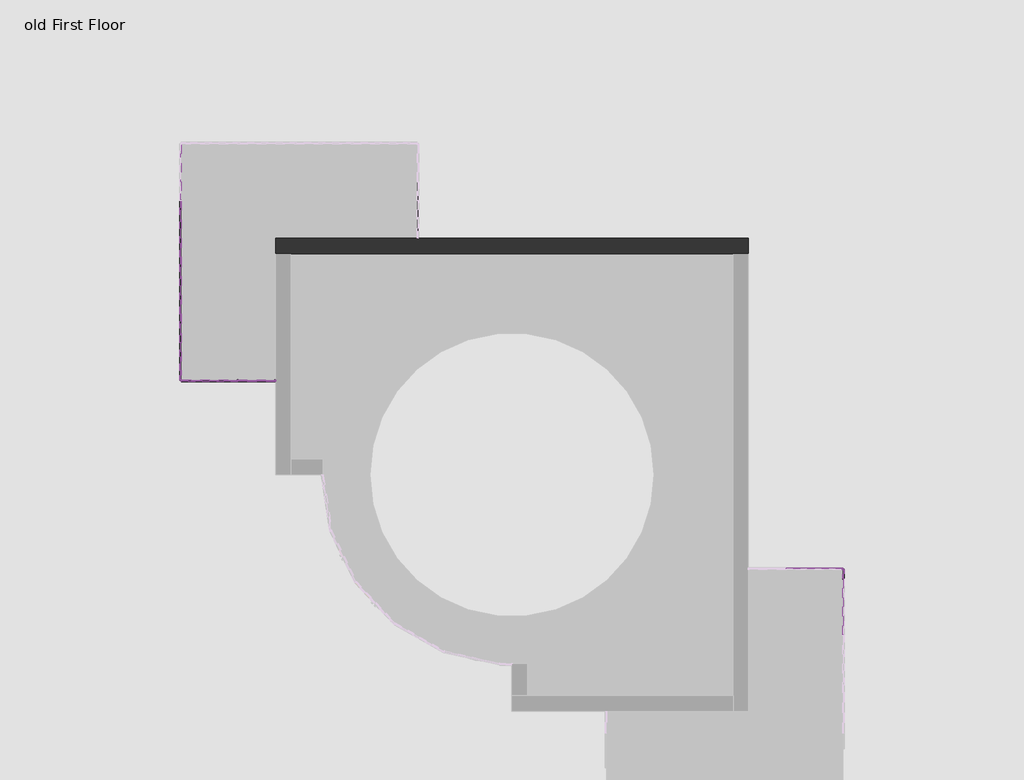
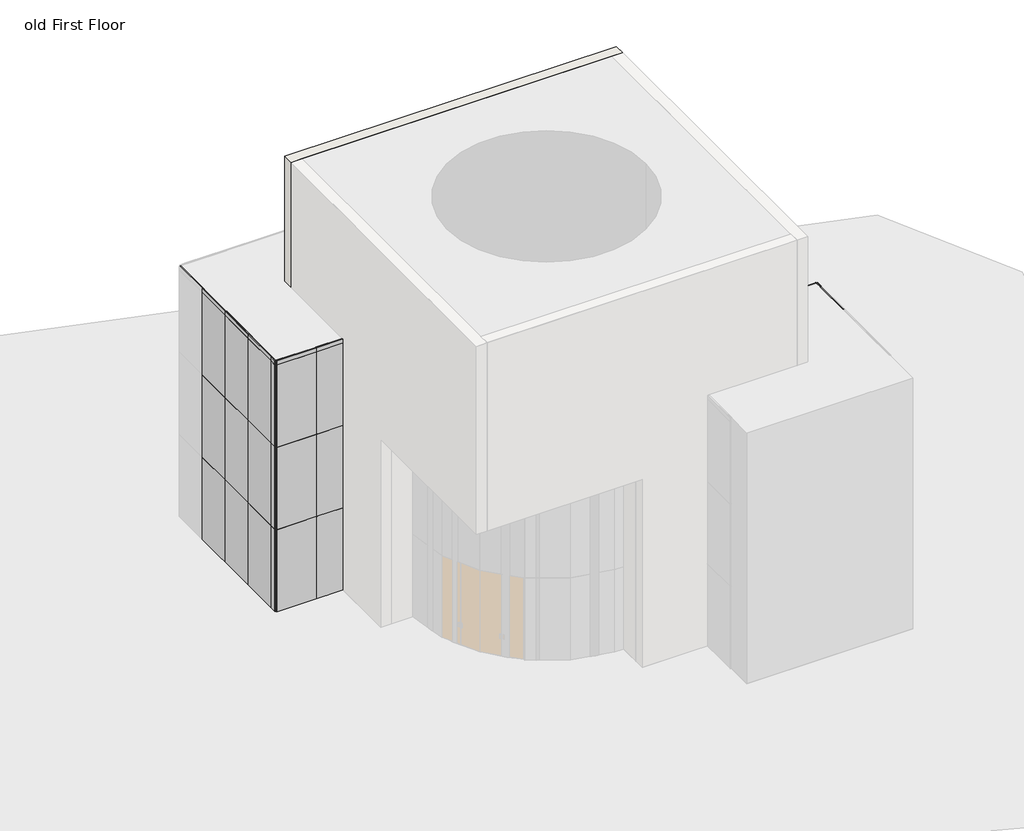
# One storey, part 3 of 4: 92 members, 31 plates, 1 wall.
"""IFC4 building model written with IfcOpenShell, lengths in millimetres."""

from ifc_helpers import new_model, si_unit, origin, place, context, project, spatial, faceted_brep, transform, mapped, element, save
from components import member_159572b0, member_653015da, member_2a641000, member_559eaf3f, member_582f46e3, member_ecc72e92, member_f3435ee7, member_a0b1ebc8, member_e916581d, member_8d5cdd9e, member_e2275742, member_baf210a9, system_panel_glazed_055f5726, system_panel_glazed_f85f85f2, system_panel_glazed_14487ba2, system_panel_glazed_56128400, system_panel_glazed_75032e0c, system_panel_glazed_306a2926

model = new_model("IFC4")

# Units and contexts
model_context = context("Model", 3, world=origin())
ifc_project = project(units=[si_unit("LENGTHUNIT", "METRE", prefix="MILLI")], contexts=[model_context])

# Site, building, storey
site = spatial("IfcSite", under=ifc_project)
building = spatial("IfcBuilding", under=site)
storey = spatial("IfcBuildingStorey", under=building, Name="old First Floor", Elevation=0.0)

# Members
placement = place(None, origin())
member_shape = member_159572b0(model_context)
element("IfcMember", 1, ObjectType="Rectangular Mullion : 1\" Square", at=placement, inside=storey, context=model_context, shape_type="MappedRepresentation", body=[
    mapped(member_shape, transform((10356.8955952, -3393.5148653, 12192.0), x_axis=(0.0, 0.0, 1.0), y_axis=(1.0, 0.0, 0.0), z_axis=(0.0, 1.0, 0.0))),
])
element("IfcMember", 2, ObjectType="Rectangular Mullion : 1\" Square", at=placement, inside=storey, context=model_context, shape_type="MappedRepresentation", body=[
    mapped(member_shape, transform((-10979.1044048, 2753.2851347, 12192.0), x_axis=(0.0, 0.0, 1.0), y_axis=(-1.0, 0.0, 0.0), z_axis=(0.0, -1.0, 0.0))),
])
member_2_shape = member_653015da(model_context)
element("IfcMember", 3, ObjectType="Rectangular Mullion : 1\" Square", at=placement, inside=storey, context=model_context, shape_type="MappedRepresentation", body=[
    mapped(member_2_shape, transform((-10953.7044048, 2727.8851347, 0.0), x_axis=(0.0, 0.0, -1.0), y_axis=(0.0, -1.0, 0.0), z_axis=(-1.0, 0.0, 0.0))),
])
element("IfcMember", 4, ObjectType="Rectangular Mullion : 1\" Square", at=placement, inside=storey, context=model_context, shape_type="MappedRepresentation", body=[
    mapped(member_2_shape, transform((-3359.1044048, 7325.2851347, 0.0), x_axis=(0.0, 0.0, -1.0), y_axis=(1.0, 0.0, 0.0), z_axis=(0.0, -1.0, 0.0))),
])
element("IfcMember", 5, ObjectType="Rectangular Mullion : 1\" Square", at=placement, inside=storey, context=model_context, shape_type="MappedRepresentation", body=[
    mapped(member_2_shape, transform((10331.4955952, -3368.1148653, 0.0), x_axis=(0.0, 0.0, -1.0), y_axis=(0.0, 1.0, 0.0), z_axis=(1.0, 0.0, 0.0))),
])
member_3_shape = member_2a641000(model_context)
element("IfcMember", 6, ObjectType="Rectangular Mullion : 1\" Square", at=placement, inside=storey, context=model_context, shape_type="MappedRepresentation", body=[
    mapped(member_3_shape, transform((10356.8955952, -3668.1148653, 0.0), x_axis=(0.0, 1.0, 0.0), y_axis=(1.0, 0.0, 0.0), z_axis=(0.0, 0.0, -1.0))),
])
element("IfcMember", 7, ObjectType="Rectangular Mullion : 1\" Square", at=placement, inside=storey, context=model_context, shape_type="MappedRepresentation", body=[
    mapped(member_3_shape, transform((-10979.1044048, 8517.8851347, 0.0), x_axis=(0.0, -1.0, 0.0), y_axis=(-1.0, 0.0, 0.0), z_axis=(0.0, 0.0, -1.0))),
])
element("IfcMember", 8, ObjectType="Rectangular Mullion : 1\" Square", at=placement, inside=storey, context=model_context, shape_type="MappedRepresentation", body=[
    mapped(member_3_shape, transform((-10979.1044048, 6687.8851347, 0.0), x_axis=(0.0, -1.0, 0.0), y_axis=(-1.0, 0.0, 0.0), z_axis=(0.0, 0.0, -1.0))),
])
element("IfcMember", 9, ObjectType="Rectangular Mullion : 1\" Square", at=placement, inside=storey, context=model_context, shape_type="MappedRepresentation", body=[
    mapped(member_3_shape, transform((-10979.1044048, 4857.8851347, 0.0), x_axis=(0.0, -1.0, 0.0), y_axis=(-1.0, 0.0, 0.0), z_axis=(0.0, 0.0, -1.0))),
])
element("IfcMember", 10, ObjectType="Rectangular Mullion : 1\" Square", at=placement, inside=storey, context=model_context, shape_type="MappedRepresentation", body=[
    mapped(member_3_shape, transform((-10979.1044048, 3027.8851347, 0.0), x_axis=(0.0, -1.0, 0.0), y_axis=(-1.0, 0.0, 0.0), z_axis=(0.0, 0.0, -1.0))),
])
element("IfcMember", 11, ObjectType="Rectangular Mullion : 1\" Square", at=placement, inside=storey, context=model_context, shape_type="MappedRepresentation", body=[
    mapped(member_3_shape, transform((-9149.1044048, 2727.8851347, 0.0), x_axis=(1.0, 0.0, 0.0), y_axis=(0.0, -1.0, 0.0), z_axis=(0.0, 0.0, -1.0))),
])
member_4_shape = member_559eaf3f(model_context)
element("IfcMember", 12, ObjectType="Rectangular Mullion : 1\" Square", at=placement, inside=storey, context=model_context, shape_type="MappedRepresentation", body=[
    mapped(member_4_shape, transform((-10979.1044048, 8530.5851347, 4000.0), x_axis=(0.0, 0.0, 1.0), y_axis=(-1.0, 0.0, 0.0), z_axis=(0.0, -1.0, 0.0))),
])
element("IfcMember", 13, ObjectType="Rectangular Mullion : 1\" Square", at=placement, inside=storey, context=model_context, shape_type="MappedRepresentation", body=[
    mapped(member_4_shape, transform((-10979.1044048, 8530.5851347, 8000.0), x_axis=(0.0, 0.0, 1.0), y_axis=(-1.0, 0.0, 0.0), z_axis=(0.0, -1.0, 0.0))),
])
element("IfcMember", 14, ObjectType="Rectangular Mullion : 1\" Square", at=placement, inside=storey, context=model_context, shape_type="MappedRepresentation", body=[
    mapped(member_4_shape, transform((-10979.1044048, 8530.5851347, 12000.0), x_axis=(0.0, 0.0, 1.0), y_axis=(-1.0, 0.0, 0.0), z_axis=(0.0, -1.0, 0.0))),
])
element("IfcMember", 15, ObjectType="Rectangular Mullion : 1\" Square", at=placement, inside=storey, context=model_context, shape_type="MappedRepresentation", body=[
    mapped(member_4_shape, transform((-9161.8044048, 2727.8851347, 4000.0), x_axis=(0.0, 0.0, 1.0), y_axis=(0.0, -1.0, 0.0), z_axis=(1.0, 0.0, 0.0))),
])
element("IfcMember", 16, ObjectType="Rectangular Mullion : 1\" Square", at=placement, inside=storey, context=model_context, shape_type="MappedRepresentation", body=[
    mapped(member_4_shape, transform((-9161.8044048, 2727.8851347, 8000.0), x_axis=(0.0, 0.0, 1.0), y_axis=(0.0, -1.0, 0.0), z_axis=(1.0, 0.0, 0.0))),
])
element("IfcMember", 17, ObjectType="Rectangular Mullion : 1\" Square", at=placement, inside=storey, context=model_context, shape_type="MappedRepresentation", body=[
    mapped(member_4_shape, transform((-9161.8044048, 2727.8851347, 12000.0), x_axis=(0.0, 0.0, 1.0), y_axis=(0.0, -1.0, 0.0), z_axis=(1.0, 0.0, 0.0))),
])
member_5_shape = member_582f46e3(model_context)
element("IfcMember", 18, ObjectType="Rectangular Mullion : 1\" Square", at=placement, inside=storey, context=model_context, shape_type="MappedRepresentation", body=[
    mapped(member_5_shape, transform((10356.8955952, -3680.8148653, 4000.0), x_axis=(0.0, 0.0, 1.0), y_axis=(1.0, 0.0, 0.0), z_axis=(0.0, 1.0, 0.0))),
])
element("IfcMember", 19, ObjectType="Rectangular Mullion : 1\" Square", at=placement, inside=storey, context=model_context, shape_type="MappedRepresentation", body=[
    mapped(member_5_shape, transform((10356.8955952, -3680.8148653, 8000.0), x_axis=(0.0, 0.0, 1.0), y_axis=(1.0, 0.0, 0.0), z_axis=(0.0, 1.0, 0.0))),
])
element("IfcMember", 20, ObjectType="Rectangular Mullion : 1\" Square", at=placement, inside=storey, context=model_context, shape_type="MappedRepresentation", body=[
    mapped(member_5_shape, transform((10356.8955952, -3680.8148653, 12000.0), x_axis=(0.0, 0.0, 1.0), y_axis=(1.0, 0.0, 0.0), z_axis=(0.0, 1.0, 0.0))),
])
element("IfcMember", 21, ObjectType="Rectangular Mullion : 1\" Square", at=placement, inside=storey, context=model_context, shape_type="MappedRepresentation", body=[
    mapped(member_5_shape, transform((-10979.1044048, 6700.5851347, 4000.0), x_axis=(0.0, 0.0, 1.0), y_axis=(-1.0, 0.0, 0.0), z_axis=(0.0, -1.0, 0.0))),
])
element("IfcMember", 22, ObjectType="Rectangular Mullion : 1\" Square", at=placement, inside=storey, context=model_context, shape_type="MappedRepresentation", body=[
    mapped(member_5_shape, transform((-10979.1044048, 4870.5851347, 4000.0), x_axis=(0.0, 0.0, 1.0), y_axis=(-1.0, 0.0, 0.0), z_axis=(0.0, -1.0, 0.0))),
])
element("IfcMember", 23, ObjectType="Rectangular Mullion : 1\" Square", at=placement, inside=storey, context=model_context, shape_type="MappedRepresentation", body=[
    mapped(member_5_shape, transform((-10979.1044048, 3040.5851347, 4000.0), x_axis=(0.0, 0.0, 1.0), y_axis=(-1.0, 0.0, 0.0), z_axis=(0.0, -1.0, 0.0))),
])
element("IfcMember", 24, ObjectType="Rectangular Mullion : 1\" Square", at=placement, inside=storey, context=model_context, shape_type="MappedRepresentation", body=[
    mapped(member_5_shape, transform((-10979.1044048, 6700.5851347, 8000.0), x_axis=(0.0, 0.0, 1.0), y_axis=(-1.0, 0.0, 0.0), z_axis=(0.0, -1.0, 0.0))),
])
element("IfcMember", 25, ObjectType="Rectangular Mullion : 1\" Square", at=placement, inside=storey, context=model_context, shape_type="MappedRepresentation", body=[
    mapped(member_5_shape, transform((-10979.1044048, 4870.5851347, 8000.0), x_axis=(0.0, 0.0, 1.0), y_axis=(-1.0, 0.0, 0.0), z_axis=(0.0, -1.0, 0.0))),
])
element("IfcMember", 26, ObjectType="Rectangular Mullion : 1\" Square", at=placement, inside=storey, context=model_context, shape_type="MappedRepresentation", body=[
    mapped(member_5_shape, transform((-10979.1044048, 3040.5851347, 8000.0), x_axis=(0.0, 0.0, 1.0), y_axis=(-1.0, 0.0, 0.0), z_axis=(0.0, -1.0, 0.0))),
])
element("IfcMember", 27, ObjectType="Rectangular Mullion : 1\" Square", at=placement, inside=storey, context=model_context, shape_type="MappedRepresentation", body=[
    mapped(member_5_shape, transform((-10979.1044048, 6700.5851347, 12000.0), x_axis=(0.0, 0.0, 1.0), y_axis=(-1.0, 0.0, 0.0), z_axis=(0.0, -1.0, 0.0))),
])
element("IfcMember", 28, ObjectType="Rectangular Mullion : 1\" Square", at=placement, inside=storey, context=model_context, shape_type="MappedRepresentation", body=[
    mapped(member_5_shape, transform((-10979.1044048, 4870.5851347, 12000.0), x_axis=(0.0, 0.0, 1.0), y_axis=(-1.0, 0.0, 0.0), z_axis=(0.0, -1.0, 0.0))),
])
element("IfcMember", 29, ObjectType="Rectangular Mullion : 1\" Square", at=placement, inside=storey, context=model_context, shape_type="MappedRepresentation", body=[
    mapped(member_5_shape, transform((-10979.1044048, 3040.5851347, 12000.0), x_axis=(0.0, 0.0, 1.0), y_axis=(-1.0, 0.0, 0.0), z_axis=(0.0, -1.0, 0.0))),
])
member_6_shape = member_ecc72e92(model_context)
element("IfcMember", 30, ObjectType="Rectangular Mullion : 1\" Square", at=placement, inside=storey, context=model_context, shape_type="MappedRepresentation", body=[
    mapped(member_6_shape, transform((10356.8955952, -3393.5148653, 4000.0), x_axis=(0.0, 0.0, 1.0), y_axis=(1.0, 0.0, 0.0), z_axis=(0.0, 1.0, 0.0))),
])
element("IfcMember", 31, ObjectType="Rectangular Mullion : 1\" Square", at=placement, inside=storey, context=model_context, shape_type="MappedRepresentation", body=[
    mapped(member_6_shape, transform((10356.8955952, -3393.5148653, 8000.0), x_axis=(0.0, 0.0, 1.0), y_axis=(1.0, 0.0, 0.0), z_axis=(0.0, 1.0, 0.0))),
])
element("IfcMember", 32, ObjectType="Rectangular Mullion : 1\" Square", at=placement, inside=storey, context=model_context, shape_type="MappedRepresentation", body=[
    mapped(member_6_shape, transform((10356.8955952, -3393.5148653, 12000.0), x_axis=(0.0, 0.0, 1.0), y_axis=(1.0, 0.0, 0.0), z_axis=(0.0, 1.0, 0.0))),
])
element("IfcMember", 33, ObjectType="Rectangular Mullion : 1\" Square", at=placement, inside=storey, context=model_context, shape_type="MappedRepresentation", body=[
    mapped(member_6_shape, transform((-10979.1044048, 2753.2851347, 4000.0), x_axis=(0.0, 0.0, 1.0), y_axis=(-1.0, 0.0, 0.0), z_axis=(0.0, -1.0, 0.0))),
])
element("IfcMember", 34, ObjectType="Rectangular Mullion : 1\" Square", at=placement, inside=storey, context=model_context, shape_type="MappedRepresentation", body=[
    mapped(member_6_shape, transform((-10979.1044048, 2753.2851347, 8000.0), x_axis=(0.0, 0.0, 1.0), y_axis=(-1.0, 0.0, 0.0), z_axis=(0.0, -1.0, 0.0))),
])
element("IfcMember", 35, ObjectType="Rectangular Mullion : 1\" Square", at=placement, inside=storey, context=model_context, shape_type="MappedRepresentation", body=[
    mapped(member_6_shape, transform((-10979.1044048, 2753.2851347, 12000.0), x_axis=(0.0, 0.0, 1.0), y_axis=(-1.0, 0.0, 0.0), z_axis=(0.0, -1.0, 0.0))),
])
member_7_shape = member_f3435ee7(model_context)
element("IfcMember", 36, ObjectType="Rectangular Mullion : 1\" Square", at=placement, inside=storey, context=model_context, shape_type="MappedRepresentation", body=[
    mapped(member_7_shape, transform((-10979.1044048, 8505.1851347, 0.0), x_axis=(0.0, 0.0, -1.0), y_axis=(-1.0, 0.0, 0.0), z_axis=(0.0, 1.0, 0.0))),
])
element("IfcMember", 37, ObjectType="Rectangular Mullion : 1\" Square", at=placement, inside=storey, context=model_context, shape_type="MappedRepresentation", body=[
    mapped(member_7_shape, transform((-10979.1044048, 6675.1851347, 0.0), x_axis=(0.0, 0.0, -1.0), y_axis=(-1.0, 0.0, 0.0), z_axis=(0.0, 1.0, 0.0))),
])
element("IfcMember", 38, ObjectType="Rectangular Mullion : 1\" Square", at=placement, inside=storey, context=model_context, shape_type="MappedRepresentation", body=[
    mapped(member_7_shape, transform((-10979.1044048, 4845.1851347, 0.0), x_axis=(0.0, 0.0, -1.0), y_axis=(-1.0, 0.0, 0.0), z_axis=(0.0, 1.0, 0.0))),
])
element("IfcMember", 39, ObjectType="Rectangular Mullion : 1\" Square", at=placement, inside=storey, context=model_context, shape_type="MappedRepresentation", body=[
    mapped(member_shape, transform((10356.8955952, -3655.4148653, 0.0), x_axis=(0.0, 0.0, -1.0), y_axis=(1.0, 0.0, 0.0), z_axis=(0.0, -1.0, 0.0))),
])
element("IfcMember", 40, ObjectType="Rectangular Mullion : 1\" Square", at=placement, inside=storey, context=model_context, shape_type="MappedRepresentation", body=[
    mapped(member_shape, transform((-10979.1044048, 3015.1851347, 0.0), x_axis=(0.0, 0.0, -1.0), y_axis=(-1.0, 0.0, 0.0), z_axis=(0.0, 1.0, 0.0))),
])
element("IfcMember", 41, ObjectType="Rectangular Mullion : 1\" Square", at=placement, inside=storey, context=model_context, shape_type="MappedRepresentation", body=[
    mapped(member_2_shape, transform((-10979.1044048, 8530.5851347, 12192.0), x_axis=(0.0, 0.0, 1.0), y_axis=(-1.0, 0.0, 0.0), z_axis=(0.0, -1.0, 0.0))),
])
element("IfcMember", 42, ObjectType="Rectangular Mullion : 1\" Square", at=placement, inside=storey, context=model_context, shape_type="MappedRepresentation", body=[
    mapped(member_2_shape, transform((-9161.8044048, 2727.8851347, 12192.0), x_axis=(0.0, 0.0, 1.0), y_axis=(0.0, -1.0, 0.0), z_axis=(1.0, 0.0, 0.0))),
])
element("IfcMember", 43, ObjectType="Rectangular Mullion : 1\" Square", at=placement, inside=storey, context=model_context, shape_type="MappedRepresentation", body=[
    mapped(member_7_shape, transform((10356.8955952, -3680.8148653, 12192.0), x_axis=(0.0, 0.0, 1.0), y_axis=(1.0, 0.0, 0.0), z_axis=(0.0, 1.0, 0.0))),
])
element("IfcMember", 44, ObjectType="Rectangular Mullion : 1\" Square", at=placement, inside=storey, context=model_context, shape_type="MappedRepresentation", body=[
    mapped(member_7_shape, transform((-10979.1044048, 6700.5851347, 12192.0), x_axis=(0.0, 0.0, 1.0), y_axis=(-1.0, 0.0, 0.0), z_axis=(0.0, -1.0, 0.0))),
])
element("IfcMember", 45, ObjectType="Rectangular Mullion : 1\" Square", at=placement, inside=storey, context=model_context, shape_type="MappedRepresentation", body=[
    mapped(member_7_shape, transform((-10979.1044048, 4870.5851347, 12192.0), x_axis=(0.0, 0.0, 1.0), y_axis=(-1.0, 0.0, 0.0), z_axis=(0.0, -1.0, 0.0))),
])
element("IfcMember", 46, ObjectType="Rectangular Mullion : 1\" Square", at=placement, inside=storey, context=model_context, shape_type="MappedRepresentation", body=[
    mapped(member_7_shape, transform((-10979.1044048, 3040.5851347, 12192.0), x_axis=(0.0, 0.0, 1.0), y_axis=(-1.0, 0.0, 0.0), z_axis=(0.0, -1.0, 0.0))),
])
element("IfcMember", 47, ObjectType="Rectangular Mullion : 1\" Square", at=placement, inside=storey, context=model_context, shape_type="MappedRepresentation", body=[
    mapped(member_3_shape, transform((10356.8955952, -3668.1148653, 4000.0), x_axis=(0.0, 1.0, 0.0), y_axis=(1.0, 0.0, 0.0), z_axis=(0.0, 0.0, -1.0))),
])
element("IfcMember", 48, ObjectType="Rectangular Mullion : 1\" Square", at=placement, inside=storey, context=model_context, shape_type="MappedRepresentation", body=[
    mapped(member_3_shape, transform((10356.8955952, -3668.1148653, 8000.0), x_axis=(0.0, 1.0, 0.0), y_axis=(1.0, 0.0, 0.0), z_axis=(0.0, 0.0, -1.0))),
])
element("IfcMember", 49, ObjectType="Rectangular Mullion : 1\" Square", at=placement, inside=storey, context=model_context, shape_type="MappedRepresentation", body=[
    mapped(member_3_shape, transform((-10979.1044048, 8517.8851347, 4000.0), x_axis=(0.0, -1.0, 0.0), y_axis=(-1.0, 0.0, 0.0), z_axis=(0.0, 0.0, -1.0))),
])
element("IfcMember", 50, ObjectType="Rectangular Mullion : 1\" Square", at=placement, inside=storey, context=model_context, shape_type="MappedRepresentation", body=[
    mapped(member_3_shape, transform((-10979.1044048, 8517.8851347, 8000.0), x_axis=(0.0, -1.0, 0.0), y_axis=(-1.0, 0.0, 0.0), z_axis=(0.0, 0.0, -1.0))),
])
element("IfcMember", 51, ObjectType="Rectangular Mullion : 1\" Square", at=placement, inside=storey, context=model_context, shape_type="MappedRepresentation", body=[
    mapped(member_3_shape, transform((-10979.1044048, 6687.8851347, 4000.0), x_axis=(0.0, -1.0, 0.0), y_axis=(-1.0, 0.0, 0.0), z_axis=(0.0, 0.0, -1.0))),
])
element("IfcMember", 52, ObjectType="Rectangular Mullion : 1\" Square", at=placement, inside=storey, context=model_context, shape_type="MappedRepresentation", body=[
    mapped(member_3_shape, transform((-10979.1044048, 6687.8851347, 8000.0), x_axis=(0.0, -1.0, 0.0), y_axis=(-1.0, 0.0, 0.0), z_axis=(0.0, 0.0, -1.0))),
])
element("IfcMember", 53, ObjectType="Rectangular Mullion : 1\" Square", at=placement, inside=storey, context=model_context, shape_type="MappedRepresentation", body=[
    mapped(member_3_shape, transform((-10979.1044048, 4857.8851347, 4000.0), x_axis=(0.0, -1.0, 0.0), y_axis=(-1.0, 0.0, 0.0), z_axis=(0.0, 0.0, -1.0))),
])
element("IfcMember", 54, ObjectType="Rectangular Mullion : 1\" Square", at=placement, inside=storey, context=model_context, shape_type="MappedRepresentation", body=[
    mapped(member_3_shape, transform((-10979.1044048, 4857.8851347, 8000.0), x_axis=(0.0, -1.0, 0.0), y_axis=(-1.0, 0.0, 0.0), z_axis=(0.0, 0.0, -1.0))),
])
element("IfcMember", 55, ObjectType="Rectangular Mullion : 1\" Square", at=placement, inside=storey, context=model_context, shape_type="MappedRepresentation", body=[
    mapped(member_3_shape, transform((-10979.1044048, 3027.8851347, 4000.0), x_axis=(0.0, -1.0, 0.0), y_axis=(-1.0, 0.0, 0.0), z_axis=(0.0, 0.0, -1.0))),
])
element("IfcMember", 56, ObjectType="Rectangular Mullion : 1\" Square", at=placement, inside=storey, context=model_context, shape_type="MappedRepresentation", body=[
    mapped(member_3_shape, transform((-10979.1044048, 3027.8851347, 8000.0), x_axis=(0.0, -1.0, 0.0), y_axis=(-1.0, 0.0, 0.0), z_axis=(0.0, 0.0, -1.0))),
])
element("IfcMember", 57, ObjectType="Rectangular Mullion : 1\" Square", at=placement, inside=storey, context=model_context, shape_type="MappedRepresentation", body=[
    mapped(member_3_shape, transform((-9149.1044048, 2727.8851347, 4000.0), x_axis=(1.0, 0.0, 0.0), y_axis=(0.0, -1.0, 0.0), z_axis=(0.0, 0.0, -1.0))),
])
element("IfcMember", 58, ObjectType="Rectangular Mullion : 1\" Square", at=placement, inside=storey, context=model_context, shape_type="MappedRepresentation", body=[
    mapped(member_3_shape, transform((-9149.1044048, 2727.8851347, 8000.0), x_axis=(1.0, 0.0, 0.0), y_axis=(0.0, -1.0, 0.0), z_axis=(0.0, 0.0, -1.0))),
])
member_8_shape = member_a0b1ebc8(model_context)
element("IfcMember", 59, ObjectType="Rectangular Mullion : 1\" Square", at=placement, inside=storey, context=model_context, shape_type="MappedRepresentation", body=[
    mapped(member_8_shape, transform((10356.8955952, -3668.1148653, 12000.0), x_axis=(0.0, 1.0, 0.0), y_axis=(1.0, 0.0, 0.0), z_axis=(0.0, 0.0, -1.0))),
])
element("IfcMember", 60, ObjectType="Rectangular Mullion : 1\" Square", at=placement, inside=storey, context=model_context, shape_type="MappedRepresentation", body=[
    mapped(member_8_shape, transform((-10979.1044048, 6687.8851347, 12000.0), x_axis=(0.0, -1.0, 0.0), y_axis=(-1.0, 0.0, 0.0), z_axis=(0.0, 0.0, -1.0))),
])
element("IfcMember", 61, ObjectType="Rectangular Mullion : 1\" Square", at=placement, inside=storey, context=model_context, shape_type="MappedRepresentation", body=[
    mapped(member_8_shape, transform((-10979.1044048, 4857.8851347, 12000.0), x_axis=(0.0, -1.0, 0.0), y_axis=(-1.0, 0.0, 0.0), z_axis=(0.0, 0.0, -1.0))),
])
element("IfcMember", 62, ObjectType="Rectangular Mullion : 1\" Square", at=placement, inside=storey, context=model_context, shape_type="MappedRepresentation", body=[
    mapped(member_8_shape, transform((-10979.1044048, 3027.8851347, 12000.0), x_axis=(0.0, -1.0, 0.0), y_axis=(-1.0, 0.0, 0.0), z_axis=(0.0, 0.0, -1.0))),
])
element("IfcMember", 63, ObjectType="Rectangular Mullion : 1\" Square", at=placement, inside=storey, context=model_context, shape_type="MappedRepresentation", body=[
    mapped(member_8_shape, transform((-9149.1044048, 2727.8851347, 12000.0), x_axis=(1.0, 0.0, 0.0), y_axis=(0.0, -1.0, 0.0), z_axis=(0.0, 0.0, -1.0))),
])
member_9_shape = member_e916581d(model_context)
element("IfcMember", 64, ObjectType="Rectangular Mullion : 1\" Square", at=placement, inside=storey, context=model_context, shape_type="MappedRepresentation", body=[
    mapped(member_9_shape, transform((-7956.5044048, 2727.8851347, 12192.0), x_axis=(0.0, 0.0, 1.0), y_axis=(0.0, -1.0, 0.0), z_axis=(1.0, 0.0, 0.0))),
])
member_10_shape = member_8d5cdd9e(model_context)
element("IfcMember", 65, ObjectType="Rectangular Mullion : 1\" Square", at=placement, inside=storey, context=model_context, shape_type="MappedRepresentation", body=[
    mapped(member_10_shape, transform((-7956.5044048, 2727.8851347, 4000.0), x_axis=(0.0, 0.0, 1.0), y_axis=(0.0, -1.0, 0.0), z_axis=(1.0, 0.0, 0.0))),
])
element("IfcMember", 66, ObjectType="Rectangular Mullion : 1\" Square", at=placement, inside=storey, context=model_context, shape_type="MappedRepresentation", body=[
    mapped(member_10_shape, transform((-7956.5044048, 2727.8851347, 8000.0), x_axis=(0.0, 0.0, 1.0), y_axis=(0.0, -1.0, 0.0), z_axis=(1.0, 0.0, 0.0))),
])
element("IfcMember", 67, ObjectType="Rectangular Mullion : 1\" Square", at=placement, inside=storey, context=model_context, shape_type="MappedRepresentation", body=[
    mapped(member_10_shape, transform((-7956.5044048, 2727.8851347, 12000.0), x_axis=(0.0, 0.0, 1.0), y_axis=(0.0, -1.0, 0.0), z_axis=(1.0, 0.0, 0.0))),
])
element("IfcMember", 68, ObjectType="Rectangular Mullion : 1\" Square", at=placement, inside=storey, context=model_context, shape_type="MappedRepresentation", body=[
    mapped(member_9_shape, transform((-9136.4044048, 2727.8851347, 0.0), x_axis=(0.0, 0.0, -1.0), y_axis=(0.0, -1.0, 0.0), z_axis=(-1.0, 0.0, 0.0))),
])
member_11_shape = member_e2275742(model_context)
element("IfcMember", 69, ObjectType="Rectangular Mullion : 1\" Square", at=placement, inside=storey, context=model_context, shape_type="MappedRepresentation", body=[
    mapped(member_11_shape, transform((10356.8955952, -3368.1148653, 0.0), x_axis=(0.0, 1.0, 0.0), y_axis=(1.0, 0.0, 0.0), z_axis=(0.0, 0.0, -1.0))),
])
element("IfcMember", 70, ObjectType="Rectangular Mullion : 1\" Square", at=placement, inside=storey, context=model_context, shape_type="MappedRepresentation", body=[
    mapped(member_11_shape, transform((-10979.1044048, 2727.8851347, 0.0), x_axis=(0.0, -1.0, 0.0), y_axis=(-1.0, 0.0, 0.0), z_axis=(0.0, 0.0, -1.0))),
])
element("IfcMember", 71, ObjectType="Rectangular Mullion : 1\" Square", at=placement, inside=storey, context=model_context, shape_type="MappedRepresentation", body=[
    mapped(member_11_shape, transform((-7931.1044048, 2727.8851347, 0.0), x_axis=(1.0, 0.0, 0.0), y_axis=(0.0, -1.0, 0.0), z_axis=(0.0, 0.0, -1.0))),
])
element("IfcMember", 72, ObjectType="Rectangular Mullion : 1\" Square", at=placement, inside=storey, context=model_context, shape_type="MappedRepresentation", body=[
    mapped(member_11_shape, transform((-10979.1044048, 2727.8851347, 4000.0), x_axis=(-1.0, 0.0, 0.0), y_axis=(0.0, -1.0, 0.0), z_axis=(0.0, 0.0, 1.0))),
])
element("IfcMember", 73, ObjectType="Rectangular Mullion : 1\" Square", at=placement, inside=storey, context=model_context, shape_type="MappedRepresentation", body=[
    mapped(member_11_shape, transform((-3359.1044048, 7299.8851347, 4000.0), x_axis=(0.0, -1.0, 0.0), y_axis=(1.0, 0.0, 0.0), z_axis=(0.0, 0.0, 1.0))),
])
element("IfcMember", 74, ObjectType="Rectangular Mullion : 1\" Square", at=placement, inside=storey, context=model_context, shape_type="MappedRepresentation", body=[
    mapped(member_11_shape, transform((10356.8955952, -3368.1148653, 4000.0), x_axis=(1.0, 0.0, 0.0), y_axis=(0.0, 1.0, 0.0), z_axis=(0.0, 0.0, 1.0))),
])
element("IfcMember", 75, ObjectType="Rectangular Mullion : 1\" Square", at=placement, inside=storey, context=model_context, shape_type="MappedRepresentation", body=[
    mapped(member_11_shape, transform((-10979.1044048, 2727.8851347, 8000.0), x_axis=(-1.0, 0.0, 0.0), y_axis=(0.0, -1.0, 0.0), z_axis=(0.0, 0.0, 1.0))),
])
element("IfcMember", 76, ObjectType="Rectangular Mullion : 1\" Square", at=placement, inside=storey, context=model_context, shape_type="MappedRepresentation", body=[
    mapped(member_11_shape, transform((-10979.1044048, 2727.8851347, 12000.0), x_axis=(-1.0, 0.0, 0.0), y_axis=(0.0, -1.0, 0.0), z_axis=(0.0, 0.0, 1.0))),
])
element("IfcMember", 77, ObjectType="Rectangular Mullion : 1\" Square", at=placement, inside=storey, context=model_context, shape_type="MappedRepresentation", body=[
    mapped(member_11_shape, transform((-3359.1044048, 7299.8851347, 8000.0), x_axis=(0.0, -1.0, 0.0), y_axis=(1.0, 0.0, 0.0), z_axis=(0.0, 0.0, 1.0))),
])
element("IfcMember", 78, ObjectType="Rectangular Mullion : 1\" Square", at=placement, inside=storey, context=model_context, shape_type="MappedRepresentation", body=[
    mapped(member_11_shape, transform((-3359.1044048, 7299.8851347, 12000.0), x_axis=(0.0, -1.0, 0.0), y_axis=(1.0, 0.0, 0.0), z_axis=(0.0, 0.0, 1.0))),
])
element("IfcMember", 79, ObjectType="Rectangular Mullion : 1\" Square", at=placement, inside=storey, context=model_context, shape_type="MappedRepresentation", body=[
    mapped(member_11_shape, transform((10356.8955952, -3368.1148653, 8000.0), x_axis=(1.0, 0.0, 0.0), y_axis=(0.0, 1.0, 0.0), z_axis=(0.0, 0.0, 1.0))),
])
element("IfcMember", 80, ObjectType="Rectangular Mullion : 1\" Square", at=placement, inside=storey, context=model_context, shape_type="MappedRepresentation", body=[
    mapped(member_11_shape, transform((10356.8955952, -3368.1148653, 12000.0), x_axis=(1.0, 0.0, 0.0), y_axis=(0.0, 1.0, 0.0), z_axis=(0.0, 0.0, 1.0))),
])
element("IfcMember", 81, ObjectType="Rectangular Mullion : 1\" Square", at=placement, inside=storey, context=model_context, shape_type="MappedRepresentation", body=[
    mapped(member_11_shape, transform((10356.8955952, -3368.1148653, 4000.0), x_axis=(0.0, 1.0, 0.0), y_axis=(1.0, 0.0, 0.0), z_axis=(0.0, 0.0, -1.0))),
])
element("IfcMember", 82, ObjectType="Rectangular Mullion : 1\" Square", at=placement, inside=storey, context=model_context, shape_type="MappedRepresentation", body=[
    mapped(member_11_shape, transform((10356.8955952, -3368.1148653, 8000.0), x_axis=(0.0, 1.0, 0.0), y_axis=(1.0, 0.0, 0.0), z_axis=(0.0, 0.0, -1.0))),
])
element("IfcMember", 83, ObjectType="Rectangular Mullion : 1\" Square", at=placement, inside=storey, context=model_context, shape_type="MappedRepresentation", body=[
    mapped(member_11_shape, transform((-10979.1044048, 2727.8851347, 4000.0), x_axis=(0.0, -1.0, 0.0), y_axis=(-1.0, 0.0, 0.0), z_axis=(0.0, 0.0, -1.0))),
])
element("IfcMember", 84, ObjectType="Rectangular Mullion : 1\" Square", at=placement, inside=storey, context=model_context, shape_type="MappedRepresentation", body=[
    mapped(member_11_shape, transform((-10979.1044048, 2727.8851347, 8000.0), x_axis=(0.0, -1.0, 0.0), y_axis=(-1.0, 0.0, 0.0), z_axis=(0.0, 0.0, -1.0))),
])
element("IfcMember", 85, ObjectType="Rectangular Mullion : 1\" Square", at=placement, inside=storey, context=model_context, shape_type="MappedRepresentation", body=[
    mapped(member_11_shape, transform((-7931.1044048, 2727.8851347, 4000.0), x_axis=(1.0, 0.0, 0.0), y_axis=(0.0, -1.0, 0.0), z_axis=(0.0, 0.0, -1.0))),
])
element("IfcMember", 86, ObjectType="Rectangular Mullion : 1\" Square", at=placement, inside=storey, context=model_context, shape_type="MappedRepresentation", body=[
    mapped(member_11_shape, transform((-7931.1044048, 2727.8851347, 8000.0), x_axis=(1.0, 0.0, 0.0), y_axis=(0.0, -1.0, 0.0), z_axis=(0.0, 0.0, -1.0))),
])
member_12_shape = member_baf210a9(model_context)
element("IfcMember", 87, ObjectType="Rectangular Mullion : 1\" Square", at=placement, inside=storey, context=model_context, shape_type="MappedRepresentation", body=[
    mapped(member_12_shape, transform((-10979.1044048, 2727.8851347, 12192.0), x_axis=(-1.0, 0.0, 0.0), y_axis=(0.0, -1.0, 0.0), z_axis=(0.0, 0.0, 1.0))),
])
element("IfcMember", 88, ObjectType="Rectangular Mullion : 1\" Square", at=placement, inside=storey, context=model_context, shape_type="MappedRepresentation", body=[
    mapped(member_12_shape, transform((-3359.1044048, 7299.8851347, 12192.0), x_axis=(0.0, -1.0, 0.0), y_axis=(1.0, 0.0, 0.0), z_axis=(0.0, 0.0, 1.0))),
])
element("IfcMember", 89, ObjectType="Rectangular Mullion : 1\" Square", at=placement, inside=storey, context=model_context, shape_type="MappedRepresentation", body=[
    mapped(member_12_shape, transform((10356.8955952, -3368.1148653, 12192.0), x_axis=(1.0, 0.0, 0.0), y_axis=(0.0, 1.0, 0.0), z_axis=(0.0, 0.0, 1.0))),
])
element("IfcMember", 90, ObjectType="Rectangular Mullion : 1\" Square", at=placement, inside=storey, context=model_context, shape_type="MappedRepresentation", body=[
    mapped(member_12_shape, transform((10356.8955952, -3368.1148653, 12000.0), x_axis=(0.0, 1.0, 0.0), y_axis=(1.0, 0.0, 0.0), z_axis=(0.0, 0.0, -1.0))),
])
element("IfcMember", 91, ObjectType="Rectangular Mullion : 1\" Square", at=placement, inside=storey, context=model_context, shape_type="MappedRepresentation", body=[
    mapped(member_12_shape, transform((-10979.1044048, 2727.8851347, 12000.0), x_axis=(0.0, -1.0, 0.0), y_axis=(-1.0, 0.0, 0.0), z_axis=(0.0, 0.0, -1.0))),
])
element("IfcMember", 92, ObjectType="Rectangular Mullion : 1\" Square", at=placement, inside=storey, context=model_context, shape_type="MappedRepresentation", body=[
    mapped(member_12_shape, transform((-7931.1044048, 2727.8851347, 12000.0), x_axis=(1.0, 0.0, 0.0), y_axis=(0.0, -1.0, 0.0), z_axis=(0.0, 0.0, -1.0))),
])

# Plates
system_panel_glazed_shape = system_panel_glazed_055f5726(model_context)
element("IfcPlate", 93, ObjectType="System Panel : Glazed", at=placement, inside=storey, context=model_context, shape_type="MappedRepresentation", body=[
    mapped(system_panel_glazed_shape, transform((-10979.1044048, 7602.8851347, 0.0), x_axis=(0.0, -1.0, 0.0), y_axis=(1.0, 0.0, 0.0), z_axis=(0.0, 0.0, 1.0))),
])
element("IfcPlate", 94, ObjectType="System Panel : Glazed", at=placement, inside=storey, context=model_context, shape_type="MappedRepresentation", body=[
    mapped(system_panel_glazed_shape, transform((-10979.1044048, 5772.8851347, 0.0), x_axis=(0.0, -1.0, 0.0), y_axis=(1.0, 0.0, 0.0), z_axis=(0.0, 0.0, 1.0))),
])
element("IfcPlate", 95, ObjectType="System Panel : Glazed", at=placement, inside=storey, context=model_context, shape_type="MappedRepresentation", body=[
    mapped(system_panel_glazed_shape, transform((-10979.1044048, 3942.8851347, 0.0), x_axis=(0.0, -1.0, 0.0), y_axis=(1.0, 0.0, 0.0), z_axis=(0.0, 0.0, 1.0))),
])
element("IfcPlate", 96, ObjectType="System Panel : Glazed", at=placement, inside=storey, context=model_context, shape_type="MappedRepresentation", body=[
    mapped(system_panel_glazed_shape, transform((-10979.1044048, 7602.8851347, 4000.0), x_axis=(0.0, -1.0, 0.0), y_axis=(1.0, 0.0, 0.0), z_axis=(0.0, 0.0, 1.0))),
])
element("IfcPlate", 97, ObjectType="System Panel : Glazed", at=placement, inside=storey, context=model_context, shape_type="MappedRepresentation", body=[
    mapped(system_panel_glazed_shape, transform((-10979.1044048, 5772.8851347, 4000.0), x_axis=(0.0, -1.0, 0.0), y_axis=(1.0, 0.0, 0.0), z_axis=(0.0, 0.0, 1.0))),
])
element("IfcPlate", 98, ObjectType="System Panel : Glazed", at=placement, inside=storey, context=model_context, shape_type="MappedRepresentation", body=[
    mapped(system_panel_glazed_shape, transform((-10979.1044048, 3942.8851347, 4000.0), x_axis=(0.0, -1.0, 0.0), y_axis=(1.0, 0.0, 0.0), z_axis=(0.0, 0.0, 1.0))),
])
element("IfcPlate", 99, ObjectType="System Panel : Glazed", at=placement, inside=storey, context=model_context, shape_type="MappedRepresentation", body=[
    mapped(system_panel_glazed_shape, transform((-10979.1044048, 7602.8851347, 8000.0), x_axis=(0.0, -1.0, 0.0), y_axis=(1.0, 0.0, 0.0), z_axis=(0.0, 0.0, 1.0))),
])
element("IfcPlate", 100, ObjectType="System Panel : Glazed", at=placement, inside=storey, context=model_context, shape_type="MappedRepresentation", body=[
    mapped(system_panel_glazed_shape, transform((-10979.1044048, 5772.8851347, 8000.0), x_axis=(0.0, -1.0, 0.0), y_axis=(1.0, 0.0, 0.0), z_axis=(0.0, 0.0, 1.0))),
])
element("IfcPlate", 101, ObjectType="System Panel : Glazed", at=placement, inside=storey, context=model_context, shape_type="MappedRepresentation", body=[
    mapped(system_panel_glazed_shape, transform((-10979.1044048, 3942.8851347, 8000.0), x_axis=(0.0, -1.0, 0.0), y_axis=(1.0, 0.0, 0.0), z_axis=(0.0, 0.0, 1.0))),
])
element("IfcPlate", 102, ObjectType="System Panel : Glazed", at=placement, inside=storey, context=model_context, shape_type="MappedRepresentation", body=[
    mapped(system_panel_glazed_shape, transform((-10064.1044048, 2727.8851347, 0.0), x_axis=(1.0, 0.0, 0.0), y_axis=(0.0, 1.0, 0.0), z_axis=(0.0, 0.0, 1.0))),
])
element("IfcPlate", 103, ObjectType="System Panel : Glazed", at=placement, inside=storey, context=model_context, shape_type="MappedRepresentation", body=[
    mapped(system_panel_glazed_shape, transform((-10064.1044048, 2727.8851347, 4000.0), x_axis=(1.0, 0.0, 0.0), y_axis=(0.0, 1.0, 0.0), z_axis=(0.0, 0.0, 1.0))),
])
element("IfcPlate", 104, ObjectType="System Panel : Glazed", at=placement, inside=storey, context=model_context, shape_type="MappedRepresentation", body=[
    mapped(system_panel_glazed_shape, transform((-10064.1044048, 2727.8851347, 8000.0), x_axis=(1.0, 0.0, 0.0), y_axis=(0.0, 1.0, 0.0), z_axis=(0.0, 0.0, 1.0))),
])
element("IfcPlate", 105, ObjectType="System Panel : Glazed", at=placement, inside=storey, context=model_context, shape_type="MappedRepresentation", body=[
    mapped(system_panel_glazed_shape, transform((9441.8955952, -3368.1148653, 4000.0), x_axis=(-1.0, 0.0, 0.0), y_axis=(0.0, -1.0, 0.0), z_axis=(0.0, 0.0, 1.0))),
])
element("IfcPlate", 106, ObjectType="System Panel : Glazed", at=placement, inside=storey, context=model_context, shape_type="MappedRepresentation", body=[
    mapped(system_panel_glazed_shape, transform((9441.8955952, -3368.1148653, 8000.0), x_axis=(-1.0, 0.0, 0.0), y_axis=(0.0, -1.0, 0.0), z_axis=(0.0, 0.0, 1.0))),
])
system_panel_glazed_2_shape = system_panel_glazed_f85f85f2(model_context)
element("IfcPlate", 107, ObjectType="System Panel : Glazed", at=placement, inside=storey, context=model_context, shape_type="MappedRepresentation", body=[
    mapped(system_panel_glazed_2_shape, transform((-10979.1044048, 2877.8851347, 0.0), x_axis=(0.0, -1.0, 0.0), y_axis=(1.0, 0.0, 0.0), z_axis=(0.0, 0.0, 1.0))),
])
element("IfcPlate", 108, ObjectType="System Panel : Glazed", at=placement, inside=storey, context=model_context, shape_type="MappedRepresentation", body=[
    mapped(system_panel_glazed_2_shape, transform((-10979.1044048, 2877.8851347, 4000.0), x_axis=(0.0, -1.0, 0.0), y_axis=(1.0, 0.0, 0.0), z_axis=(0.0, 0.0, 1.0))),
])
element("IfcPlate", 109, ObjectType="System Panel : Glazed", at=placement, inside=storey, context=model_context, shape_type="MappedRepresentation", body=[
    mapped(system_panel_glazed_2_shape, transform((-10979.1044048, 2877.8851347, 8000.0), x_axis=(0.0, -1.0, 0.0), y_axis=(1.0, 0.0, 0.0), z_axis=(0.0, 0.0, 1.0))),
])
element("IfcPlate", 110, ObjectType="System Panel : Glazed", at=placement, inside=storey, context=model_context, shape_type="MappedRepresentation", body=[
    mapped(system_panel_glazed_2_shape, transform((10356.8955952, -3518.1148653, 0.0), x_axis=(0.0, 1.0, 0.0), y_axis=(-1.0, 0.0, 0.0), z_axis=(0.0, 0.0, 1.0))),
])
element("IfcPlate", 111, ObjectType="System Panel : Glazed", at=placement, inside=storey, context=model_context, shape_type="MappedRepresentation", body=[
    mapped(system_panel_glazed_2_shape, transform((10356.8955952, -3518.1148653, 4000.0), x_axis=(0.0, 1.0, 0.0), y_axis=(-1.0, 0.0, 0.0), z_axis=(0.0, 0.0, 1.0))),
])
element("IfcPlate", 112, ObjectType="System Panel : Glazed", at=placement, inside=storey, context=model_context, shape_type="MappedRepresentation", body=[
    mapped(system_panel_glazed_2_shape, transform((10356.8955952, -3518.1148653, 8000.0), x_axis=(0.0, 1.0, 0.0), y_axis=(-1.0, 0.0, 0.0), z_axis=(0.0, 0.0, 1.0))),
])
system_panel_glazed_3_shape = system_panel_glazed_14487ba2(model_context)
element("IfcPlate", 113, ObjectType="System Panel : Glazed", at=placement, inside=storey, context=model_context, shape_type="MappedRepresentation", body=[
    mapped(system_panel_glazed_3_shape, transform((-10979.1044048, 7602.8851347, 12000.0), x_axis=(0.0, -1.0, 0.0), y_axis=(1.0, 0.0, 0.0), z_axis=(0.0, 0.0, 1.0))),
])
element("IfcPlate", 114, ObjectType="System Panel : Glazed", at=placement, inside=storey, context=model_context, shape_type="MappedRepresentation", body=[
    mapped(system_panel_glazed_3_shape, transform((-10979.1044048, 5772.8851347, 12000.0), x_axis=(0.0, -1.0, 0.0), y_axis=(1.0, 0.0, 0.0), z_axis=(0.0, 0.0, 1.0))),
])
element("IfcPlate", 115, ObjectType="System Panel : Glazed", at=placement, inside=storey, context=model_context, shape_type="MappedRepresentation", body=[
    mapped(system_panel_glazed_3_shape, transform((-10979.1044048, 3942.8851347, 12000.0), x_axis=(0.0, -1.0, 0.0), y_axis=(1.0, 0.0, 0.0), z_axis=(0.0, 0.0, 1.0))),
])
element("IfcPlate", 116, ObjectType="System Panel : Glazed", at=placement, inside=storey, context=model_context, shape_type="MappedRepresentation", body=[
    mapped(system_panel_glazed_3_shape, transform((-10064.1044048, 2727.8851347, 12000.0), x_axis=(1.0, 0.0, 0.0), y_axis=(0.0, 1.0, 0.0), z_axis=(0.0, 0.0, 1.0))),
])
element("IfcPlate", 117, ObjectType="System Panel : Glazed", at=placement, inside=storey, context=model_context, shape_type="MappedRepresentation", body=[
    mapped(system_panel_glazed_3_shape, transform((9441.8955952, -3368.1148653, 12000.0), x_axis=(-1.0, 0.0, 0.0), y_axis=(0.0, -1.0, 0.0), z_axis=(0.0, 0.0, 1.0))),
])
system_panel_glazed_4_shape = system_panel_glazed_56128400(model_context)
element("IfcPlate", 118, ObjectType="System Panel : Glazed", at=placement, inside=storey, context=model_context, shape_type="MappedRepresentation", body=[
    mapped(system_panel_glazed_4_shape, transform((-10979.1044048, 2877.8851347, 12000.0), x_axis=(0.0, -1.0, 0.0), y_axis=(1.0, 0.0, 0.0), z_axis=(0.0, 0.0, 1.0))),
])
element("IfcPlate", 119, ObjectType="System Panel : Glazed", at=placement, inside=storey, context=model_context, shape_type="MappedRepresentation", body=[
    mapped(system_panel_glazed_4_shape, transform((10356.8955952, -3518.1148653, 12000.0), x_axis=(0.0, 1.0, 0.0), y_axis=(-1.0, 0.0, 0.0), z_axis=(0.0, 0.0, 1.0))),
])
system_panel_glazed_5_shape = system_panel_glazed_75032e0c(model_context)
element("IfcPlate", 120, ObjectType="System Panel : Glazed", at=placement, inside=storey, context=model_context, shape_type="MappedRepresentation", body=[
    mapped(system_panel_glazed_5_shape, transform((-8540.1044048, 2727.8851347, 0.0), x_axis=(1.0, 0.0, 0.0), y_axis=(0.0, 1.0, 0.0), z_axis=(0.0, 0.0, 1.0))),
])
element("IfcPlate", 121, ObjectType="System Panel : Glazed", at=placement, inside=storey, context=model_context, shape_type="MappedRepresentation", body=[
    mapped(system_panel_glazed_5_shape, transform((-8540.1044048, 2727.8851347, 4000.0), x_axis=(1.0, 0.0, 0.0), y_axis=(0.0, 1.0, 0.0), z_axis=(0.0, 0.0, 1.0))),
])
element("IfcPlate", 122, ObjectType="System Panel : Glazed", at=placement, inside=storey, context=model_context, shape_type="MappedRepresentation", body=[
    mapped(system_panel_glazed_5_shape, transform((-8540.1044048, 2727.8851347, 8000.0), x_axis=(1.0, 0.0, 0.0), y_axis=(0.0, 1.0, 0.0), z_axis=(0.0, 0.0, 1.0))),
])
system_panel_glazed_6_shape = system_panel_glazed_306a2926(model_context)
element("IfcPlate", 123, ObjectType="System Panel : Glazed", at=placement, inside=storey, context=model_context, shape_type="MappedRepresentation", body=[
    mapped(system_panel_glazed_6_shape, transform((-8540.1044048, 2727.8851347, 12000.0), x_axis=(1.0, 0.0, 0.0), y_axis=(0.0, 1.0, 0.0), z_axis=(0.0, 0.0, 1.0))),
])

# Wall
element("IfcWall", 124, ObjectType="Exterior - Brick on CMU", at=placement, inside=storey, context=model_context, shape_type="Brep", body=[
    faceted_brep([(7308.8955952, 7299.8851347, 0.0), (-7931.1044048, 7299.8851347, 0.0), (-7931.1044048, 7299.8851347, 18288.0), (7308.8955952, 7299.8851347, 18288.0), (7308.8955952, 6804.5851347, 0.0), (7308.8955952, 6804.5851347, 18288.0), (6813.5955952, 6804.5851347, 18288.0), (-7435.8044048, 6804.5851347, 18288.0), (-7931.1044048, 6804.5851347, 18288.0), (-7931.1044048, 6804.5851347, 0.0), (-7435.8044048, 6804.5851347, 0.0), (6813.5955952, 6804.5851347, 0.0)], [[[0, 1, 2, 3]], [[4, 5, 6, 7, 8, 9, 10, 11]], [[1, 0, 4, 11, 10, 9]], [[3, 2, 8, 7, 6, 5]], [[0, 3, 5, 4]], [[2, 1, 9, 8]]]),
])

save(model, "model.ifc")
